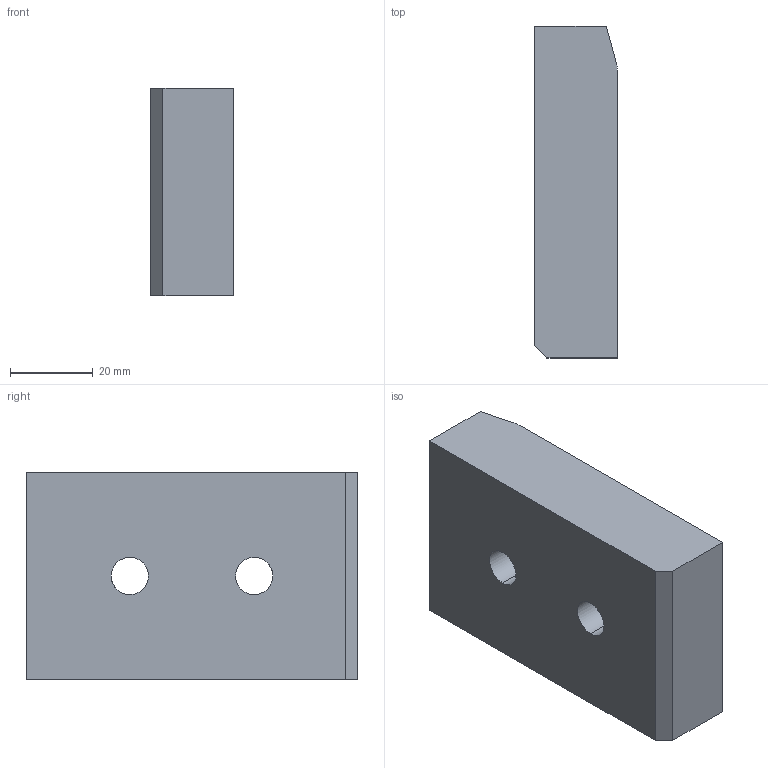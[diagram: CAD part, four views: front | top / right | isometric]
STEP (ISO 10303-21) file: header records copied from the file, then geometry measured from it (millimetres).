
FILE_DESCRIPTION(('CATIA V5 STEP Exchange'),'2;1');
FILE_NAME('C:\Users\borellobunino\Desktop\3D X SITO CF\A915\GSB_OILLESS_G22501050080\A915-50X80.stp','2019-07-14T12:31:26+00:00',('none'),('none'),'CATIA Version 5 Release 20 GA (IN-10)','CATIA V5 STEP AP203','none');
FILE_SCHEMA(('CONFIG_CONTROL_DESIGN'));
Length unit declared in the file: millimetre
Products named in the file (1): A915-50X80
Bounding box: 20 x 80 x 50 mm (x, y, z)
Volume: 74325.4 mm3; surface area: 14062 mm2
Topology: 1 solids, 1 shells, 23 faces, 73 edges, 54 vertices
Faces by surface type: plane 10, cylinder 9, torus 4
Entity records: 1045 total; most frequent: CARTESIAN_POINT 363, ORIENTED_EDGE 146, DIRECTION 103, EDGE_CURVE 73, AXIS2_PLACEMENT_3D 54, VERTEX_POINT 54, CIRCLE 30, EDGE_LOOP 29
